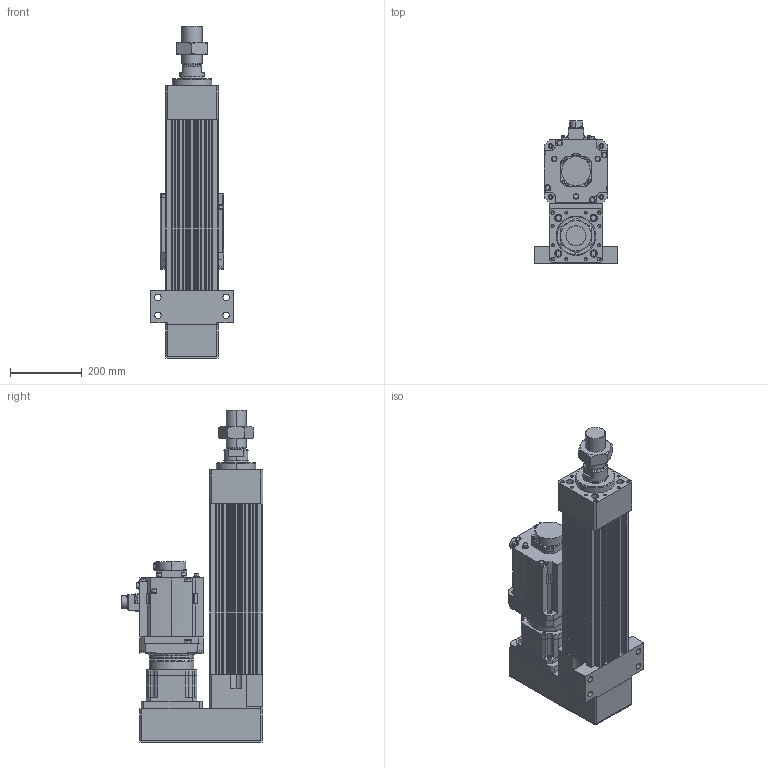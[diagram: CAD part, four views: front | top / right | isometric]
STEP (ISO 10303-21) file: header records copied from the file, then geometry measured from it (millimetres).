
FILE_DESCRIPTION (( 'STEP AP203' ), '1' );
FILE_NAME ('HES150NS(HS)-P200-W050G00-M-FFC.STEP', '2026-06-10T06:38:17', ( 'tms' ), ( '' ), 'SwSTEP 2.0', 'SolidWorks 2013', '' );
FILE_SCHEMA (( 'CONFIG_CONTROL_DESIGN' ));
Length unit declared in the file: millimetre
Products named in the file (9): HES150-P-G142; AB1423; HES150-FFC-200; M56X2.0P; AB1422; AB1421; HES150-M-ROD-200; HES150NS(HS)-P200-W050G00-M-FFC; HG-SR502B
Assembly tree (8 placements, depth 2):
  HES150NS(HS)-P200-W050G00-M-FFC
    HES150-FFC-200
    HES150-M-ROD-200
    M56X2.0P
    HES150-P-G142
    HG-SR502B
    AB1421
    AB1422
    AB1423
Bounding box: 230 x 395.85 x 926 mm (x, y, z)
Volume: 17737978.7 mm3; surface area: 1746072.4 mm2
Topology: 5 solids, 19 shells, 1536 faces, 4000 edges, 2590 vertices
Faces by surface type: cylinder 714, plane 584, cone 156, bspline 76, torus 6
Entity records: 56036 total; most frequent: CARTESIAN_POINT 16912, DIRECTION 8212, ORIENTED_EDGE 7878, EDGE_CURVE 3961, AXIS2_PLACEMENT_3D 3115, VERTEX_POINT 2590, LINE 1982, VECTOR 1982
